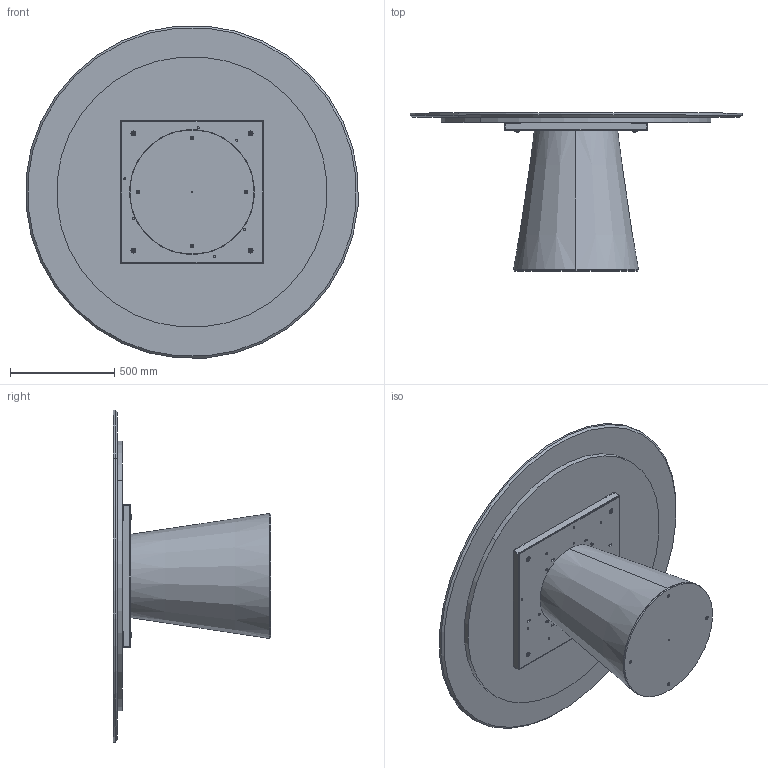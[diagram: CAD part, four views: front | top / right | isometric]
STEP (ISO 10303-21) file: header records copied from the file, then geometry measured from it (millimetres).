
FILE_DESCRIPTION (( 'STEP AP203' ), '1' );
FILE_NAME ('TO08M_Teo_d.160_Marble.STEP', '2024-08-02T09:24:17', ( '' ), ( '' ), 'SwSTEP 2.0', 'SolidWorks 2022', '' );
FILE_SCHEMA (( 'CONFIG_CONTROL_DESIGN' ));
Length unit declared in the file: millimetre
Products named in the file (14): M0XMXX-00-Piani Rotondi in marmo 2024_1600; TEO0000-00-TEO BASE LEGNO IMPIALLACCIATA LEVIGATO PRONTA X VERNICE; TTAV0801 TELAIO UNIVERSALE TONDO-PIASTRINA; M8xXXmm_hex_M8X20mm; BASE TED LEGNO CON ZAVORRA; TEO000000PIA-00-TEO PIASTRA DI BASE IN METALLO GREZZO; M0X-00- D. piani marmo_D.1600; TTAV0801-02-TELAIO UNIVERSALE TONDO; TO08M_Teo_d.160_Marble; rondella M8_8X24; M8xXXmm_M8x55mm; TTAV0801-02-TELAIO UNIVERSALE TONDO-VASSOIO; TRU0000X-00-SOTTO PIANO D.XXXXmm_TRU00001 d.130cm; COLLO TELAIO UNIVERSALE TTAV0801 CON FERRAMENTA_MTG TOP LEGNO-MARMO-KING
Assembly tree (25 placements, depth 4):
  TO08M_Teo_d.160_Marble
    BASE TED LEGNO CON ZAVORRA
      TEO000000PIA-00-TEO PIASTRA DI BASE IN METALLO GREZZO
      TEO0000-00-TEO BASE LEGNO IMPIALLACCIATA LEVIGATO PRONTA X VERNICE
      M8xXXmm_hex_M8X20mm  x4
    COLLO TELAIO UNIVERSALE TTAV0801 CON FERRAMENTA_MTG TOP LEGNO-MARMO-KING
      TTAV0801-02-TELAIO UNIVERSALE TONDO
        TTAV0801-02-TELAIO UNIVERSALE TONDO-VASSOIO
        TTAV0801 TELAIO UNIVERSALE TONDO-PIASTRINA  x4
      rondella M8_8X24  x4
      M8xXXmm_M8x55mm  x4
    M0XMXX-00-Piani Rotondi in marmo 2024_1600
      M0X-00- D. piani marmo_D.1600
      TRU0000X-00-SOTTO PIANO D.XXXXmm_TRU00001 d.130cm
Bounding box: 1593.91 x 758.19 x 1593.91 mm (x, y, z)
Volume: 103389789.1 mm3; surface area: 11276958.6 mm2
Topology: 21 solids, 21 shells, 818 faces, 2040 edges, 1253 vertices
Faces by surface type: plane 372, cylinder 296, cone 94, torus 56
Entity records: 16156 total; most frequent: DIRECTION 2608, CARTESIAN_POINT 2504, ORIENTED_EDGE 2378, EDGE_CURVE 1189, AXIS2_PLACEMENT_3D 948, VERTEX_POINT 758, LINE 712, VECTOR 712
